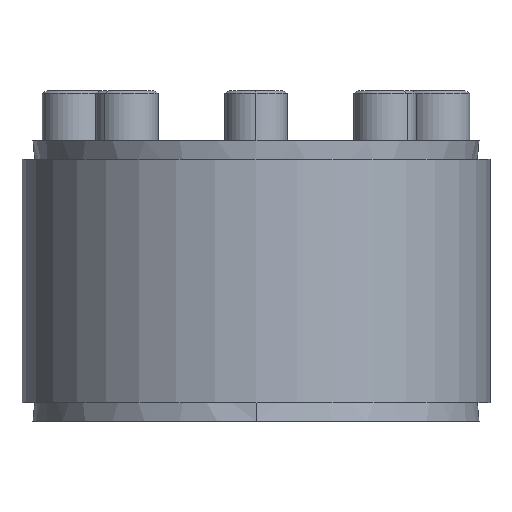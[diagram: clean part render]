
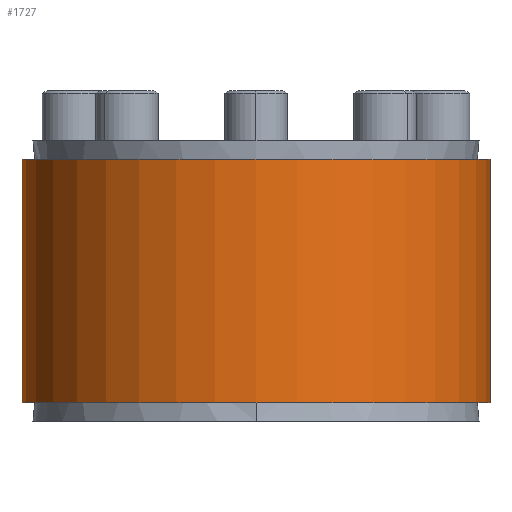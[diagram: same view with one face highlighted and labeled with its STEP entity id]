
A CAD part, front view. The second image highlights one B-rep face of the part: STEP entity #1727.
In plain terms, the highlighted cylindrical face has radius 375 mm (diameter 750 mm), a partial arc.
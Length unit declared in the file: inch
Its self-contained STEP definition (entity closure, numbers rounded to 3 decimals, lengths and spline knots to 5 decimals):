
#38 = ORIENTED_EDGE ( 'NONE', *, *, #3369, .T. ) ;
#65 = CYLINDRICAL_SURFACE ( 'NONE', #1775, 14.76378 ) ;
#87 = EDGE_CURVE ( 'NONE', #2887, #3092, #258, .T. ) ;
#258 = LINE ( 'NONE', #2413, #1260 ) ;
#341 = ORIENTED_EDGE ( 'NONE', *, *, #1498, .T. ) ;
#404 = CIRCLE ( 'NONE', #3417, 14.76378 ) ;
#415 = AXIS2_PLACEMENT_3D ( 'NONE', #2453, #2420, #795 ) ;
#526 = EDGE_CURVE ( 'NONE', #2268, #1656, #1427, .T. ) ;
#773 = DIRECTION ( 'NONE',  ( 0., 0., 1. ) ) ;
#795 = DIRECTION ( 'NONE',  ( 1., 0., 0. ) ) ;
#822 = DIRECTION ( 'NONE',  ( 0., 0., 1. ) ) ;
#872 = CIRCLE ( 'NONE', #415, 14.76378 ) ;
#1029 = CARTESIAN_POINT ( 'NONE',  ( 14.76378, 35.43307, -16.53543 ) ) ;
#1077 = CARTESIAN_POINT ( 'NONE',  ( 44.29134, 35.43307, -1.1811 ) ) ;
#1143 = CARTESIAN_POINT ( 'NONE',  ( 29.52756, 35.43307, -16.53543 ) ) ;
#1248 = ORIENTED_EDGE ( 'NONE', *, *, #526, .T. ) ;
#1260 = VECTOR ( 'NONE', #1891, 39.37008 ) ;
#1427 = LINE ( 'NONE', #3162, #1466 ) ;
#1466 = VECTOR ( 'NONE', #1545, 39.37008 ) ;
#1498 = EDGE_CURVE ( 'NONE', #2887, #2268, #404, .T. ) ;
#1545 = DIRECTION ( 'NONE',  ( 0., 0., 1. ) ) ;
#1656 = VERTEX_POINT ( 'NONE', #1077 ) ;
#1677 = CARTESIAN_POINT ( 'NONE',  ( 29.52756, 35.43307, -8.85827 ) ) ;
#1727 = ADVANCED_FACE ( 'NONE', ( #2742 ), #65, .T. ) ;
#1775 = AXIS2_PLACEMENT_3D ( 'NONE', #1677, #822, #3322 ) ;
#1851 = EDGE_LOOP ( 'NONE', ( #2970, #341, #1248, #38 ) ) ;
#1891 = DIRECTION ( 'NONE',  ( 0., 0., 1. ) ) ;
#2268 = VERTEX_POINT ( 'NONE', #3408 ) ;
#2413 = CARTESIAN_POINT ( 'NONE',  ( 14.76378, 35.43307, -8.85827 ) ) ;
#2420 = DIRECTION ( 'NONE',  ( 0., 0., -1. ) ) ;
#2453 = CARTESIAN_POINT ( 'NONE',  ( 29.52756, 35.43307, -1.1811 ) ) ;
#2742 = FACE_OUTER_BOUND ( 'NONE', #1851, .T. ) ;
#2766 = CARTESIAN_POINT ( 'NONE',  ( 14.76378, 35.43307, -1.1811 ) ) ;
#2887 = VERTEX_POINT ( 'NONE', #1029 ) ;
#2970 = ORIENTED_EDGE ( 'NONE', *, *, #87, .F. ) ;
#3092 = VERTEX_POINT ( 'NONE', #2766 ) ;
#3162 = CARTESIAN_POINT ( 'NONE',  ( 44.29134, 35.43307, -8.85827 ) ) ;
#3209 = DIRECTION ( 'NONE',  ( 1., 0., 0. ) ) ;
#3322 = DIRECTION ( 'NONE',  ( 1., 0., 0. ) ) ;
#3369 = EDGE_CURVE ( 'NONE', #1656, #3092, #872, .T. ) ;
#3408 = CARTESIAN_POINT ( 'NONE',  ( 44.29134, 35.43307, -16.53543 ) ) ;
#3417 = AXIS2_PLACEMENT_3D ( 'NONE', #1143, #773, #3209 ) ;
